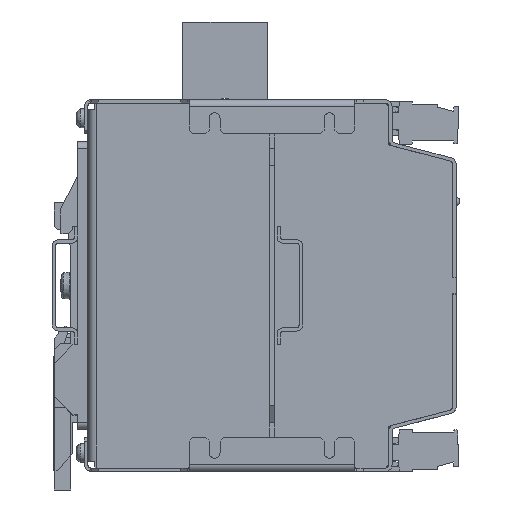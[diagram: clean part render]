
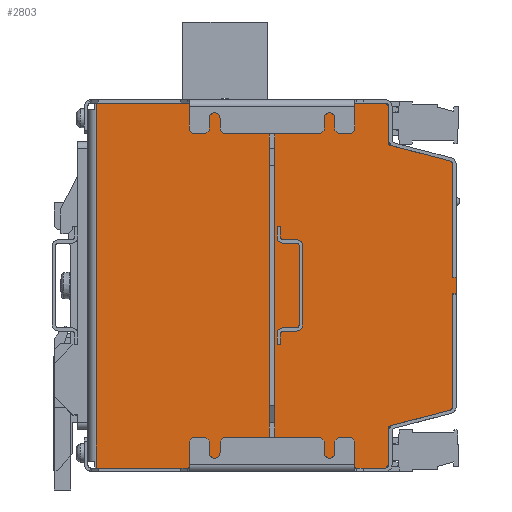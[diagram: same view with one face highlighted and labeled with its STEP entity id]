
A CAD part, left-side view. The second image highlights one B-rep face of the part: STEP entity #2803.
In plain terms, the highlighted planar face has unit normal (-1, 0, 0).
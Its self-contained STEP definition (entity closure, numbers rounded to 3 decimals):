
#2803 = ADVANCED_FACE( '', ( #8512 ), #8513, .T. );
#8512 = FACE_OUTER_BOUND( '', #17867, .T. );
#8513 = PLANE( '', #17868 );
#17867 = EDGE_LOOP( '', ( #31882, #31883, #31884, #31885, #31886, #31887, #31888, #31889, #31890, #31891, #31892, #31893, #31894, #31895, #31896, #31897 ) );
#17868 = AXIS2_PLACEMENT_3D( '', #31898, #31899, #31900 );
#31882 = ORIENTED_EDGE( '', *, *, #61965, .T. );
#31883 = ORIENTED_EDGE( '', *, *, #61966, .T. );
#31884 = ORIENTED_EDGE( '', *, *, #61967, .T. );
#31885 = ORIENTED_EDGE( '', *, *, #61968, .T. );
#31886 = ORIENTED_EDGE( '', *, *, #61969, .T. );
#31887 = ORIENTED_EDGE( '', *, *, #61970, .T. );
#31888 = ORIENTED_EDGE( '', *, *, #61962, .F. );
#31889 = ORIENTED_EDGE( '', *, *, #61956, .F. );
#31890 = ORIENTED_EDGE( '', *, *, #61971, .T. );
#31891 = ORIENTED_EDGE( '', *, *, #61972, .T. );
#31892 = ORIENTED_EDGE( '', *, *, #61973, .T. );
#31893 = ORIENTED_EDGE( '', *, *, #61974, .T. );
#31894 = ORIENTED_EDGE( '', *, *, #61975, .T. );
#31895 = ORIENTED_EDGE( '', *, *, #61976, .T. );
#31896 = ORIENTED_EDGE( '', *, *, #61977, .T. );
#31897 = ORIENTED_EDGE( '', *, *, #61978, .T. );
#31898 = CARTESIAN_POINT( '', ( -27., 54.5, -54. ) );
#31899 = DIRECTION( '', ( -1., 0., 0. ) );
#31900 = DIRECTION( '', ( 0., 0., 1. ) );
#61956 = EDGE_CURVE( '', #72589, #72591, #72592, .T. );
#61962 = EDGE_CURVE( '', #72591, #72601, #72602, .T. );
#61965 = EDGE_CURVE( '', #72606, #72607, #72608, .T. );
#61966 = EDGE_CURVE( '', #72607, #72609, #72610, .T. );
#61967 = EDGE_CURVE( '', #72609, #72611, #72612, .T. );
#61968 = EDGE_CURVE( '', #72611, #72613, #72614, .T. );
#61969 = EDGE_CURVE( '', #72613, #72615, #72616, .T. );
#61970 = EDGE_CURVE( '', #72615, #72601, #72617, .T. );
#61971 = EDGE_CURVE( '', #72589, #72618, #72619, .T. );
#61972 = EDGE_CURVE( '', #72618, #72620, #72621, .T. );
#61973 = EDGE_CURVE( '', #72620, #72622, #72623, .T. );
#61974 = EDGE_CURVE( '', #72622, #72624, #72625, .T. );
#61975 = EDGE_CURVE( '', #72624, #72626, #72627, .T. );
#61976 = EDGE_CURVE( '', #72626, #72628, #72629, .T. );
#61977 = EDGE_CURVE( '', #72628, #72630, #72631, .T. );
#61978 = EDGE_CURVE( '', #72630, #72606, #72632, .T. );
#72589 = VERTEX_POINT( '', #88896 );
#72591 = VERTEX_POINT( '', #88898 );
#72592 = LINE( '', #88899, #88900 );
#72601 = VERTEX_POINT( '', #88912 );
#72602 = LINE( '', #88913, #88914 );
#72606 = VERTEX_POINT( '', #88920 );
#72607 = VERTEX_POINT( '', #88921 );
#72608 = LINE( '', #88922, #88923 );
#72609 = VERTEX_POINT( '', #88924 );
#72610 = LINE( '', #88925, #88926 );
#72611 = VERTEX_POINT( '', #88927 );
#72612 = LINE( '', #88928, #88929 );
#72613 = VERTEX_POINT( '', #88930 );
#72614 = LINE( '', #88931, #88932 );
#72615 = VERTEX_POINT( '', #88933 );
#72616 = LINE( '', #88934, #88935 );
#72617 = LINE( '', #88936, #88937 );
#72618 = VERTEX_POINT( '', #88938 );
#72619 = LINE( '', #88939, #88940 );
#72620 = VERTEX_POINT( '', #88941 );
#72621 = LINE( '', #88942, #88943 );
#72622 = VERTEX_POINT( '', #88944 );
#72623 = LINE( '', #88945, #88946 );
#72624 = VERTEX_POINT( '', #88947 );
#72625 = LINE( '', #88948, #88949 );
#72626 = VERTEX_POINT( '', #88950 );
#72627 = LINE( '', #88951, #88952 );
#72628 = VERTEX_POINT( '', #88953 );
#72629 = LINE( '', #88954, #88955 );
#72630 = VERTEX_POINT( '', #88956 );
#72631 = LINE( '', #88957, #88958 );
#72632 = LINE( '', #88959, #88960 );
#88896 = CARTESIAN_POINT( '', ( -27., 52., -54. ) );
#88898 = CARTESIAN_POINT( '', ( -27., 52., 54. ) );
#88899 = CARTESIAN_POINT( '', ( -27., 52., -54. ) );
#88900 = VECTOR( '', #115377, 1000. );
#88912 = CARTESIAN_POINT( '', ( -27., -33.5, 54. ) );
#88913 = CARTESIAN_POINT( '', ( -27., 54.5, 54. ) );
#88914 = VECTOR( '', #115387, 1000. );
#88920 = CARTESIAN_POINT( '', ( -27., -54.5, 2.4 ) );
#88921 = CARTESIAN_POINT( '', ( -27., -53.5, 2.4 ) );
#88922 = CARTESIAN_POINT( '', ( -27., 54.5, 2.4 ) );
#88923 = VECTOR( '', #115390, 1000. );
#88924 = CARTESIAN_POINT( '', ( -27., -53.5, 35.64 ) );
#88925 = CARTESIAN_POINT( '', ( -27., -53.5, -54. ) );
#88926 = VECTOR( '', #115391, 1000. );
#88927 = CARTESIAN_POINT( '', ( -27., -52.536, 36.908 ) );
#88928 = CARTESIAN_POINT( '', ( -27., -57.138, 30.854 ) );
#88929 = VECTOR( '', #115392, 1000. );
#88930 = CARTESIAN_POINT( '', ( -27., -34.5, 41.64 ) );
#88931 = CARTESIAN_POINT( '', ( -27., 25.29, 57.327 ) );
#88932 = VECTOR( '', #115393, 1000. );
#88933 = CARTESIAN_POINT( '', ( -27., -34.5, 53. ) );
#88934 = CARTESIAN_POINT( '', ( -27., -34.5, -54. ) );
#88935 = VECTOR( '', #115394, 1000. );
#88936 = CARTESIAN_POINT( '', ( -27., -43.5, 44. ) );
#88937 = VECTOR( '', #115395, 1000. );
#88938 = CARTESIAN_POINT( '', ( -27., -33.5, -54. ) );
#88939 = CARTESIAN_POINT( '', ( -27., 54.5, -54. ) );
#88940 = VECTOR( '', #115396, 1000. );
#88941 = CARTESIAN_POINT( '', ( -27., -34.5, -53. ) );
#88942 = CARTESIAN_POINT( '', ( -27., 10.5, -98. ) );
#88943 = VECTOR( '', #115397, 1000. );
#88944 = CARTESIAN_POINT( '', ( -27., -34.5, -41.64 ) );
#88945 = CARTESIAN_POINT( '', ( -27., -34.5, -54. ) );
#88946 = VECTOR( '', #115398, 1000. );
#88947 = CARTESIAN_POINT( '', ( -27., -52.536, -36.908 ) );
#88948 = CARTESIAN_POINT( '', ( -27., 51.802, -64.284 ) );
#88949 = VECTOR( '', #115399, 1000. );
#88950 = CARTESIAN_POINT( '', ( -27., -53.5, -35.64 ) );
#88951 = CARTESIAN_POINT( '', ( -27., -5.108, -99.307 ) );
#88952 = VECTOR( '', #115400, 1000. );
#88953 = CARTESIAN_POINT( '', ( -27., -53.5, -2.4 ) );
#88954 = CARTESIAN_POINT( '', ( -27., -53.5, -54. ) );
#88955 = VECTOR( '', #115401, 1000. );
#88956 = CARTESIAN_POINT( '', ( -27., -54.5, -2.4 ) );
#88957 = CARTESIAN_POINT( '', ( -27., 54.5, -2.4 ) );
#88958 = VECTOR( '', #115402, 1000. );
#88959 = CARTESIAN_POINT( '', ( -27., -54.5, -54. ) );
#88960 = VECTOR( '', #115403, 1000. );
#115377 = DIRECTION( '', ( 0., 0., 1. ) );
#115387 = DIRECTION( '', ( 0., -1., 0. ) );
#115390 = DIRECTION( '', ( 0., 1., 0. ) );
#115391 = DIRECTION( '', ( 0., 0., 1. ) );
#115392 = DIRECTION( '', ( 0., 0.605, 0.796 ) );
#115393 = DIRECTION( '', ( 0., 0.967, 0.254 ) );
#115394 = DIRECTION( '', ( 0., 0., 1. ) );
#115395 = DIRECTION( '', ( 0., 0.707, 0.707 ) );
#115396 = DIRECTION( '', ( 0., -1., 0. ) );
#115397 = DIRECTION( '', ( 0., -0.707, 0.707 ) );
#115398 = DIRECTION( '', ( 0., 0., 1. ) );
#115399 = DIRECTION( '', ( 0., -0.967, 0.254 ) );
#115400 = DIRECTION( '', ( 0., -0.605, 0.796 ) );
#115401 = DIRECTION( '', ( 0., 0., 1. ) );
#115402 = DIRECTION( '', ( 0., -1., 0. ) );
#115403 = DIRECTION( '', ( 0., 0., 1. ) );
